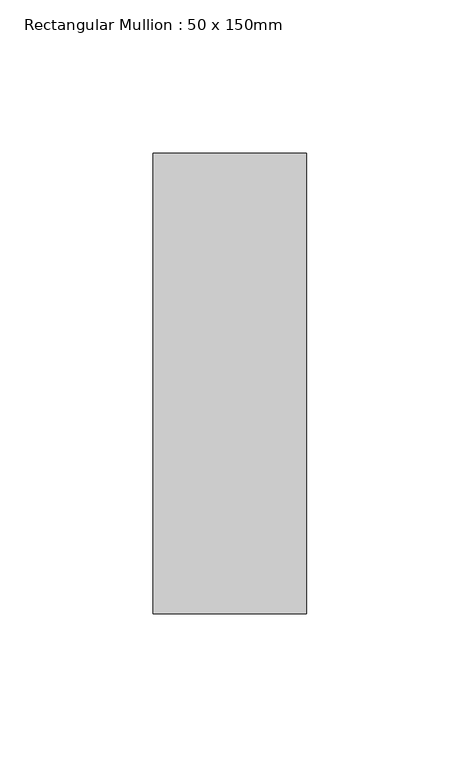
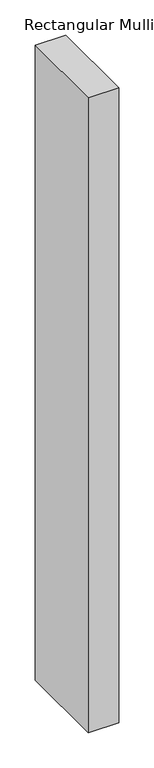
"""IFC4 building model written with IfcOpenShell, lengths in millimetres: member geometry, Rectangular Mullion : 50 x 150mm."""

import ifcopenshell
import ifcopenshell.guid

model = None  # the IFC model being written
_history = None  # IfcOwnerHistory: only IFC2X3 demands one
_inside = {}  # id of a spatial element -> (the spatial element, [elements in it])
_under = {}  # id of a project, library or spatial element -> (it, [spatial elements below it])
_declared = {}  # id of a project -> (the project, [libraries it declares])
_typed = {}  # id of a type object -> (the type object, [elements of that type])
_made_of = {}  # id of a material, layer set ... -> (it, [elements and type objects made of it])


def new_model(schema):
    """Start an empty IFC model of exactly this schema.

    Asked for "IFC4X3", IfcOpenShell would pick the latest addendum, in which some entities
    have other attributes; the version numbers below select the first issue.
    IFC2X3 requires an IfcOwnerHistory on every rooted entity: one is made here for all.
    """
    global model, _history
    if schema == "IFC4X3":
        model = ifcopenshell.file(schema_version=(4, 3, 0, 0))
    else:
        model = ifcopenshell.file(schema=schema)
    _inside.clear()
    _under.clear()
    _declared.clear()
    _typed.clear()
    _made_of.clear()
    _history = None
    if model.schema == "IFC2X3":
        org = make("IfcOrganization", Name="unknown")
        user = make(
            "IfcPersonAndOrganization",
            ThePerson=make("IfcPerson", FamilyName="unknown"),
            TheOrganization=org,
        )
        app = make(
            "IfcApplication",
            ApplicationDeveloper=org,
            Version="unknown",
            ApplicationFullName="unknown",
            ApplicationIdentifier="unknown",
        )
        _history = make(
            "IfcOwnerHistory",
            OwningUser=user,
            OwningApplication=app,
            ChangeAction="ADDED",
            CreationDate=0,
        )
    return model


def make(cls, **values):
    """One entity of the class cls with the attributes given. An attribute that is None is left unset."""
    return model.create_entity(
        cls, **{name: value for name, value in values.items() if value is not None}
    )


def rooted(cls, **values):
    """An entity with a GlobalId (a new one), such as an element, a storey or a relation."""
    return make(cls, GlobalId=ifcopenshell.guid.new(), OwnerHistory=_history, **values)


def si_unit(unit_type, name, prefix=None):
    """IfcSIUnit, for example si_unit("LENGTHUNIT", "METRE", prefix="MILLI")."""
    return make("IfcSIUnit", UnitType=unit_type, Prefix=prefix, Name=name)


def assignment(units):
    """IfcUnitAssignment: the units of a project."""
    return None if units is None else make("IfcUnitAssignment", Units=units)


def point(xyz):
    """IfcCartesianPoint."""
    return None if xyz is None else make("IfcCartesianPoint", Coordinates=xyz)


def direction(xyz):
    """IfcDirection."""
    return None if xyz is None else make("IfcDirection", DirectionRatios=xyz)


def frame(location, z_axis=None, x_axis=None):
    """IfcAxis2Placement3D, a coordinate frame: its origin and axes. An axis left out is left unset."""
    return make(
        "IfcAxis2Placement3D",
        Location=point(location),
        Axis=direction(z_axis),
        RefDirection=direction(x_axis),
    )


def origin():
    """The frame at (0, 0, 0) with its axes left unset."""
    return frame((0.0, 0.0, 0.0))


def place(relative_to, where):
    """IfcLocalPlacement: puts the frame where relative to a parent placement (None: the world)."""
    return make(
        "IfcLocalPlacement", PlacementRelTo=relative_to, RelativePlacement=where
    )


def context(
    kind, dimensions, precision=None, world=None, true_north=None, identifier=None
):
    """IfcGeometricRepresentationContext, for example the 3D "Model" context."""
    return make(
        "IfcGeometricRepresentationContext",
        ContextIdentifier=identifier,
        ContextType=kind,
        CoordinateSpaceDimension=dimensions,
        Precision=precision,
        WorldCoordinateSystem=world,
        TrueNorth=true_north,
    )


def project(units=None, contexts=None):
    """IfcProject with its units and contexts."""
    return rooted(
        "IfcProject",
        Name="project",
        RepresentationContexts=contexts,
        UnitsInContext=assignment(units),
    )


def spatial(cls, under=None, at=None, **own):
    """A site, building, storey or space (cls), placed at a placement, below another one or the project."""
    s = rooted(cls, ObjectPlacement=at, **own)
    if under is not None:
        _under.setdefault(under.id(), (under, []))[1].append(s)
    return s


def polyline(points):
    """IfcPolyline through the points."""
    return make("IfcPolyline", Points=[point(p) for p in points])


def outline(outer, holes=None, kind="AREA"):
    """IfcArbitraryClosedProfileDef: a profile drawn as a closed curve; with holes, ...WithVoids."""
    if holes is None:
        return make("IfcArbitraryClosedProfileDef", ProfileType=kind, OuterCurve=outer)
    return make(
        "IfcArbitraryProfileDefWithVoids",
        ProfileType=kind,
        OuterCurve=outer,
        InnerCurves=holes,
    )


def extrude(swept, where, along, depth):
    """IfcExtrudedAreaSolid: the profile swept, set in the frame where, extruded along a direction by depth."""
    return make(
        "IfcExtrudedAreaSolid",
        SweptArea=swept,
        Position=where,
        ExtrudedDirection=direction(along),
        Depth=depth,
    )


def shape(context_of_items, identifier, shape_type, items):
    """IfcShapeRepresentation: the items that make up one representation, for example the "Body"."""
    return make(
        "IfcShapeRepresentation",
        ContextOfItems=context_of_items,
        RepresentationIdentifier=identifier,
        RepresentationType=shape_type,
        Items=items,
    )


def source(mapping_origin, context_of_items, identifier, shape_type, items):
    """IfcRepresentationMap: a shape defined once, which mapped items show again and again."""
    return make(
        "IfcRepresentationMap",
        MappingOrigin=mapping_origin,
        MappedRepresentation=shape(context_of_items, identifier, shape_type, items),
    )


def transform(
    local_origin,
    x_axis=None,
    y_axis=None,
    z_axis=None,
    scale=None,
    scale2=None,
    scale3=None,
    uniform=True,
):
    """IfcCartesianTransformationOperator3D, or its non-uniform kind. x_axis, y_axis, z_axis: its Axis1, 2, 3."""
    if uniform:
        return make(
            "IfcCartesianTransformationOperator3D",
            Axis1=direction(x_axis),
            Axis2=direction(y_axis),
            LocalOrigin=point(local_origin),
            Scale=scale,
            Axis3=direction(z_axis),
        )
    return make(
        "IfcCartesianTransformationOperator3DnonUniform",
        Axis1=direction(x_axis),
        Axis2=direction(y_axis),
        LocalOrigin=point(local_origin),
        Scale=scale,
        Axis3=direction(z_axis),
        Scale2=scale2,
        Scale3=scale3,
    )


def mapped(mapping_source, mapping_target):
    """IfcMappedItem: shows the shape of a source again, moved by a transform."""
    return make(
        "IfcMappedItem", MappingSource=mapping_source, MappingTarget=mapping_target
    )


def made_of(thing, what):
    """Note that an element or type object is made of a material, layer set ...; save() writes the relation."""
    if what is not None:
        _made_of.setdefault(what.id(), (what, []))[1].append(thing)
    return thing


def element(
    cls,
    number,
    at=None,
    inside=None,
    cuts=None,
    type_object=None,
    material=None,
    context=None,
    identifier="Body",
    shape_type=None,
    held_by="IfcProductDefinitionShape",
    body=None,
    shapes=None,
    **own,
):
    """One element of the class cls, such as IfcWall. Its Tag is "e" and its number.

    at: its placement. inside: the storey or other place that contains it. cuts: it is an
    opening in that element (IfcRelVoidsElement). A single representation is given by context,
    identifier, shape_type and body (its items); several are given by shapes. held_by: the class
    of the entity that holds the representations. save() writes the other relations.
    """
    e = rooted(cls, Tag="e%d" % number, ObjectPlacement=at, **own)
    if body is not None:
        shapes = [shape(context, identifier, shape_type, body)]
    if shapes is not None:
        e.Representation = make(held_by, Representations=shapes)
    if inside is not None:
        _inside.setdefault(inside.id(), (inside, []))[1].append(e)
    if cuts is not None:
        rooted(
            "IfcRelVoidsElement", RelatingBuildingElement=cuts, RelatedOpeningElement=e
        )
    if type_object is not None:
        _typed.setdefault(type_object.id(), (type_object, []))[1].append(e)
    return made_of(e, material)


def aggregate(whole, parts):
    """IfcRelAggregates: a whole, such as a stair, and the parts it consists of."""
    return rooted("IfcRelAggregates", RelatingObject=whole, RelatedObjects=parts)


def save(model, path):
    """Write the relations noted so far, then the file.

    IfcRelAggregates (storeys below a building ...), IfcRelContainedInSpatialStructure (elements
    in a storey), IfcRelDefinesByType, IfcRelAssociatesMaterial and IfcRelDeclares: one each for
    every whole, place, type object, material and project.
    """
    for whole, parts in _under.values():
        aggregate(whole, parts)
    for where, things in _inside.values():
        rooted(
            "IfcRelContainedInSpatialStructure",
            RelatedElements=things,
            RelatingStructure=where,
        )
    for kind, things in _typed.values():
        rooted("IfcRelDefinesByType", RelatedObjects=things, RelatingType=kind)
    for what, things in _made_of.values():
        rooted("IfcRelAssociatesMaterial", RelatedObjects=things, RelatingMaterial=what)
    for by, libraries in _declared.values():
        rooted("IfcRelDeclares", RelatingContext=by, RelatedDefinitions=libraries)
    model.write(path)


def rectangular_mullion_50_x_150mm_a88ac5a8(model_context):
    return source(origin(), model_context, "Body", "SweptSolid", [
        extrude(outline(polyline([(0.0, 75.0), (0.0, -75.0), (-50.0, -75.0), (-50.0, 75.0), (0.0, 75.0)])), frame((0.0, 0.0, -1098.9999997), z_axis=(0.0, 0.0, 1.0), x_axis=(1.0, 0.0, 0.0)), (0.0, 0.0, 1.0), 1098.9999997),
    ])


if __name__ == "__main__":
    model = new_model("IFC4")
    model_context = context("Model", 3, world=origin())
    ifc_project = project(units=[si_unit("LENGTHUNIT", "METRE", prefix="MILLI")], contexts=[model_context])
    site = spatial("IfcSite", under=ifc_project)
    building = spatial("IfcBuilding", under=site)
    placement = place(None, origin())
    rectangular_mullion_50_x_150mm_shape = rectangular_mullion_50_x_150mm_a88ac5a8(model_context)
    element("IfcMember", 1, ObjectType="Rectangular Mullion : 50 x 150mm", at=placement, inside=building, context=model_context, shape_type="MappedRepresentation", body=[
        mapped(rectangular_mullion_50_x_150mm_shape, transform((0.0, 0.0, 0.0), x_axis=(1.0, 0.0, 0.0), y_axis=(0.0, 1.0, 0.0), z_axis=(0.0, 0.0, 1.0))),
    ])
    save(model, "model.ifc")
